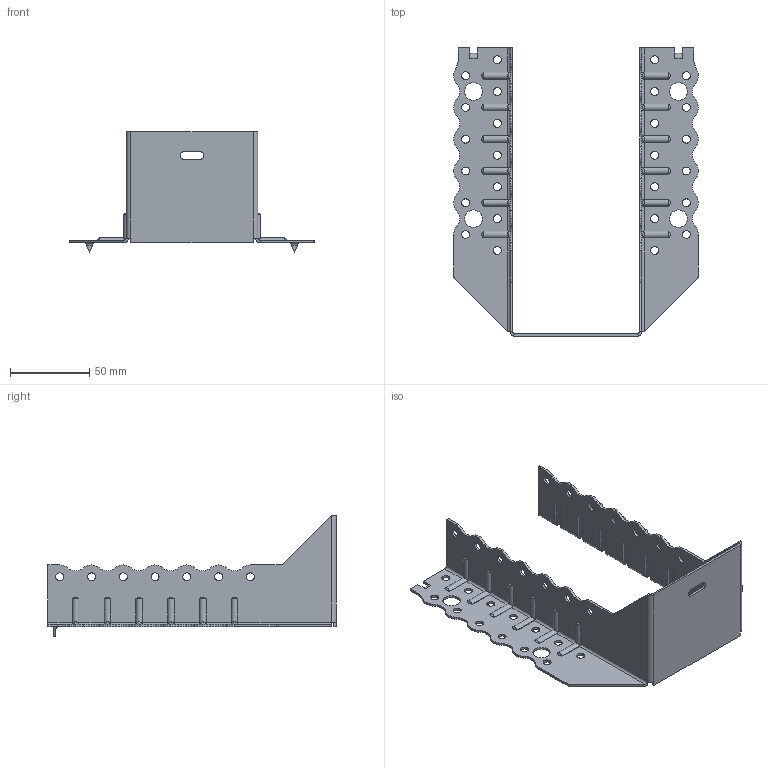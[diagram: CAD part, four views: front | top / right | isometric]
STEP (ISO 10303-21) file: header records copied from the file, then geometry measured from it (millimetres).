
FILE_DESCRIPTION (( 'STEP AP203' ), '1' );
FILE_NAME ('30627TOP.STEP', '2021-04-07T13:41:07', ( '' ), ( '' ), 'SwSTEP 2.0', 'SolidWorks 2013', '' );
FILE_SCHEMA (( 'CONFIG_CONTROL_DESIGN' ));
Length unit declared in the file: millimetre
Products named in the file (1): 30627TOP
Bounding box: 154 x 181.5 x 76 mm (x, y, z)
Volume: 44794.9 mm3; surface area: 63651.5 mm2
Topology: 1 solids, 1 shells, 498 faces, 1348 edges, 852 vertices
Faces by surface type: cylinder 317, plane 133, torus 24, bspline 24
Entity records: 18595 total; most frequent: CARTESIAN_POINT 5929, ORIENTED_EDGE 2696, DIRECTION 2596, EDGE_CURVE 1348, AXIS2_PLACEMENT_3D 949, VERTEX_POINT 852, LINE 698, VECTOR 698
